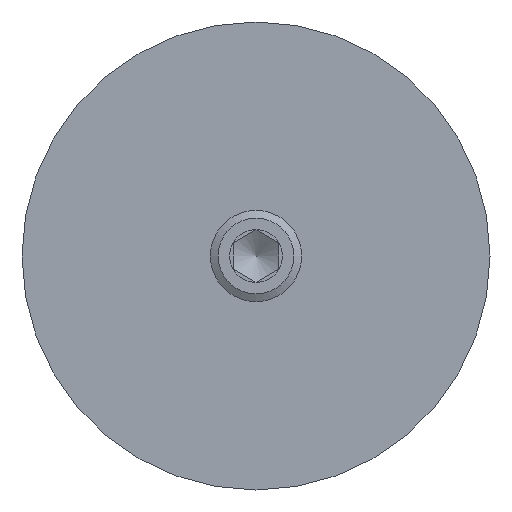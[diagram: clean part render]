
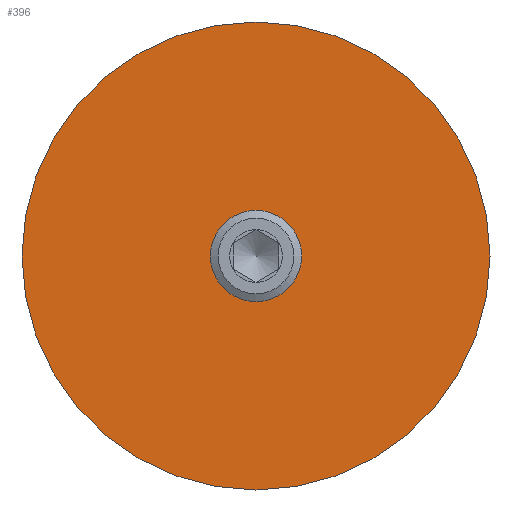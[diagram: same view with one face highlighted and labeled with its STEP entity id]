
A CAD part, front view. The second image highlights one B-rep face of the part: STEP entity #396.
In plain terms, the highlighted planar face has unit normal (0, -1, 0).
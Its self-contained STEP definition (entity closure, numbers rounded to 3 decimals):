
#58=PLANE('',#450);
#91=FACE_BOUND('',#164,.T.);
#114=FACE_OUTER_BOUND('',#163,.T.);
#163=EDGE_LOOP('',(#306));
#164=EDGE_LOOP('',(#307));
#193=CIRCLE('',#432,4.);
#201=CIRCLE('',#449,20.5);
#218=VERTEX_POINT('',#646);
#226=VERTEX_POINT('',#671);
#243=EDGE_CURVE('',#218,#218,#193,.T.);
#251=EDGE_CURVE('',#226,#226,#201,.T.);
#306=ORIENTED_EDGE('',*,*,#251,.T.);
#307=ORIENTED_EDGE('',*,*,#243,.F.);
#396=ADVANCED_FACE('',(#114,#91),#58,.T.);
#432=AXIS2_PLACEMENT_3D('',#647,#505,#506);
#449=AXIS2_PLACEMENT_3D('',#672,#539,#540);
#450=AXIS2_PLACEMENT_3D('',#673,#541,#542);
#505=DIRECTION('center_axis',(0.,-1.,0.));
#506=DIRECTION('ref_axis',(1.,0.,0.));
#539=DIRECTION('center_axis',(0.,-1.,0.));
#540=DIRECTION('ref_axis',(1.,0.,0.));
#541=DIRECTION('center_axis',(0.,-1.,0.));
#542=DIRECTION('ref_axis',(0.,0.,-1.));
#646=CARTESIAN_POINT('',(4.,32.,0.));
#647=CARTESIAN_POINT('Origin',(0.,32.,0.));
#671=CARTESIAN_POINT('',(20.5,32.,0.));
#672=CARTESIAN_POINT('Origin',(0.,32.,0.));
#673=CARTESIAN_POINT('Origin',(4.,32.,0.));
